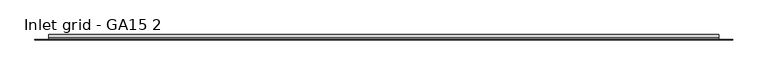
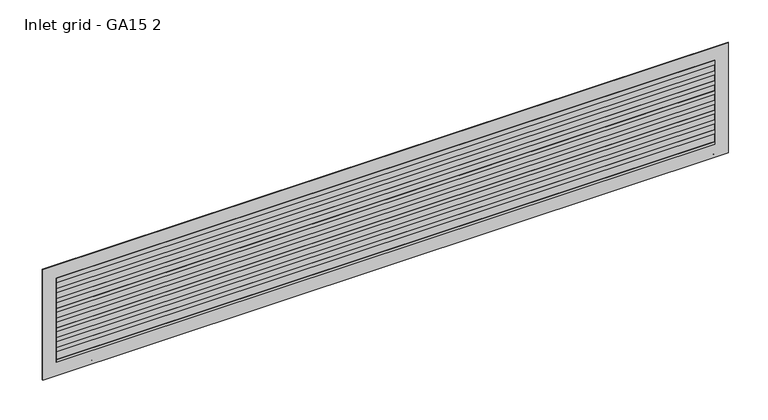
"""IFC4 building model written with IfcOpenShell, lengths in millimetres: proxy geometry, HVAC_Accessories_Emmeti_Grid-GA : Inlet grid - GA15 2."""

from ifc_helpers import new_model, si_unit, point, frame, frame_2d, origin, place, context, project, spatial, polyline, circle_curve, trimmed, segment, composite_curve, outline, extrude, source, transform, mapped, element, save


def inlet_grid_ga15_2_d9a18460(model_context):
    return source(origin(), model_context, "Body", "SweptSolid", [
        extrude(outline(composite_curve([segment(polyline([(4.732363, 150.0), (1.0, 163.9963613)]), True, "CONTINUOUS"), segment(trimmed(circle_curve(frame_2d((1.9313102, 163.1688853)), 1.245815), [point((1.0, 163.9963613))], [point((3.1350602, 163.4898854))], False, "CARTESIAN"), True, "CONTINUOUS"), segment(polyline([(3.1350602, 163.4898854), (7.772988, 146.0976564)]), True, "CONTINUOUS"), segment(trimmed(circle_curve(frame_2d((4.272988, 146.0976564)), 3.5), [point((7.772988, 146.0976564))], [point((4.272988, 142.5976564))], False, "CARTESIAN"), True, "CONTINUOUS"), segment(polyline([(4.272988, 142.5976564), (0.0, 142.5976564), (0.0, 150.0), (4.732363, 150.0)]), True, "CONTINUOUS")], self_intersect=False)), frame((-680.0, 0.0, 0.0), z_axis=(1.0, 0.0, 0.0), x_axis=(0.0, 1.0, 0.0)), (0.0, 0.0, 1.0), 960.0),
        extrude(outline(composite_curve([segment(polyline([(0.0, 127.5116343), (0.0, 133.2976564), (1.0, 133.2976564)]), True, "CONTINUOUS"), segment(trimmed(circle_curve(frame_2d((-9.0945217, 118.5661561)), 17.8582326), [point((1.0, 133.2976564))], [point((5.6369786, 128.6606778))], False, "CARTESIAN"), True, "CONTINUOUS"), segment(trimmed(circle_curve(frame_2d((4.0, 127.5116343)), 2.0), [point((5.6369786, 128.6606778))], [point((6.0, 127.5116343))], False, "CARTESIAN"), True, "CONTINUOUS"), segment(polyline([(6.0, 127.5116343), (0.0, 127.5116343)]), True, "CONTINUOUS")], self_intersect=False)), frame((-680.0, 0.0, 0.0), z_axis=(1.0, 0.0, 0.0), x_axis=(0.0, 1.0, 0.0)), (0.0, 0.0, 1.0), 960.0),
        extrude(outline(composite_curve([segment(polyline([(0.0, 112.4256122), (0.0, 118.2116343), (1.0, 118.2116343)]), True, "CONTINUOUS"), segment(trimmed(circle_curve(frame_2d((-9.0945217, 103.480134)), 17.8582326), [point((1.0, 118.2116343))], [point((5.6369786, 113.5746557))], False, "CARTESIAN"), True, "CONTINUOUS"), segment(trimmed(circle_curve(frame_2d((4.0, 112.4256122)), 2.0), [point((5.6369786, 113.5746557))], [point((6.0, 112.4256122))], False, "CARTESIAN"), True, "CONTINUOUS"), segment(polyline([(6.0, 112.4256122), (0.0, 112.4256122)]), True, "CONTINUOUS")], self_intersect=False)), frame((-680.0, 0.0, 0.0), z_axis=(1.0, 0.0, 0.0), x_axis=(0.0, 1.0, 0.0)), (0.0, 0.0, 1.0), 960.0),
        extrude(outline(composite_curve([segment(polyline([(0.0, 97.3395901), (0.0, 103.1256122), (1.0, 103.1256122)]), True, "CONTINUOUS"), segment(trimmed(circle_curve(frame_2d((-9.0945217, 88.3941118)), 17.8582326), [point((1.0, 103.1256122))], [point((5.6369786, 98.4886335))], False, "CARTESIAN"), True, "CONTINUOUS"), segment(trimmed(circle_curve(frame_2d((4.0, 97.3395901)), 2.0), [point((5.6369786, 98.4886335))], [point((6.0, 97.3395901))], False, "CARTESIAN"), True, "CONTINUOUS"), segment(polyline([(6.0, 97.3395901), (0.0, 97.3395901)]), True, "CONTINUOUS")], self_intersect=False)), frame((-680.0, 0.0, 0.0), z_axis=(1.0, 0.0, 0.0), x_axis=(0.0, 1.0, 0.0)), (0.0, 0.0, 1.0), 960.0),
        extrude(outline(composite_curve([segment(polyline([(0.0, 82.187813), (0.0, 87.9738351), (1.0, 87.9738351)]), True, "CONTINUOUS"), segment(trimmed(circle_curve(frame_2d((-9.0945217, 73.2423348)), 17.8582326), [point((1.0, 87.9738351))], [point((5.6369786, 83.3368565))], False, "CARTESIAN"), True, "CONTINUOUS"), segment(trimmed(circle_curve(frame_2d((4.0, 82.187813)), 2.0), [point((5.6369786, 83.3368565))], [point((6.0, 82.187813))], False, "CARTESIAN"), True, "CONTINUOUS"), segment(polyline([(6.0, 82.187813), (0.0, 82.187813)]), True, "CONTINUOUS")], self_intersect=False)), frame((-680.0, 0.0, 0.0), z_axis=(1.0, 0.0, 0.0), x_axis=(0.0, 1.0, 0.0)), (0.0, 0.0, 1.0), 960.0),
        extrude(outline(composite_curve([segment(polyline([(0.0, 67.1017909), (0.0, 72.887813), (1.0, 72.887813)]), True, "CONTINUOUS"), segment(trimmed(circle_curve(frame_2d((-9.0945217, 58.1563127)), 17.8582326), [point((1.0, 72.887813))], [point((5.6369786, 68.2508344))], False, "CARTESIAN"), True, "CONTINUOUS"), segment(trimmed(circle_curve(frame_2d((4.0, 67.1017909)), 2.0), [point((5.6369786, 68.2508344))], [point((6.0, 67.1017909))], False, "CARTESIAN"), True, "CONTINUOUS"), segment(polyline([(6.0, 67.1017909), (0.0, 67.1017909)]), True, "CONTINUOUS")], self_intersect=False)), frame((-680.0, 0.0, 0.0), z_axis=(1.0, 0.0, 0.0), x_axis=(0.0, 1.0, 0.0)), (0.0, 0.0, 1.0), 960.0),
        extrude(outline(composite_curve([segment(polyline([(0.0, 52.0157688), (0.0, 57.8017909), (1.0, 57.8017909)]), True, "CONTINUOUS"), segment(trimmed(circle_curve(frame_2d((-9.0945217, 43.0702905)), 17.8582326), [point((1.0, 57.8017909))], [point((5.6369786, 53.1648122))], False, "CARTESIAN"), True, "CONTINUOUS"), segment(trimmed(circle_curve(frame_2d((4.0, 52.0157688)), 2.0), [point((5.6369786, 53.1648122))], [point((6.0, 52.0157688))], False, "CARTESIAN"), True, "CONTINUOUS"), segment(polyline([(6.0, 52.0157688), (0.0, 52.0157688)]), True, "CONTINUOUS")], self_intersect=False)), frame((-680.0, 0.0, 0.0), z_axis=(1.0, 0.0, 0.0), x_axis=(0.0, 1.0, 0.0)), (0.0, 0.0, 1.0), 960.0),
        extrude(outline(composite_curve([segment(polyline([(0.0, 36.8639917), (0.0, 42.6500138), (1.0, 42.6500138)]), True, "CONTINUOUS"), segment(trimmed(circle_curve(frame_2d((-9.0945217, 27.9185135)), 17.8582326), [point((1.0, 42.6500138))], [point((5.6369786, 38.0130352))], False, "CARTESIAN"), True, "CONTINUOUS"), segment(trimmed(circle_curve(frame_2d((4.0, 36.8639917)), 2.0), [point((5.6369786, 38.0130352))], [point((6.0, 36.8639917))], False, "CARTESIAN"), True, "CONTINUOUS"), segment(polyline([(6.0, 36.8639917), (0.0, 36.8639917)]), True, "CONTINUOUS")], self_intersect=False)), frame((-680.0, 0.0, 0.0), z_axis=(1.0, 0.0, 0.0), x_axis=(0.0, 1.0, 0.0)), (0.0, 0.0, 1.0), 960.0),
        extrude(outline(composite_curve([segment(polyline([(0.0, 20.0), (0.0, 24.4023436), (5.772988, 24.4023436)]), True, "CONTINUOUS"), segment(trimmed(circle_curve(frame_2d((5.772988, 22.4023436)), 2.0), [point((5.772988, 24.4023436))], [point((7.772988, 22.4023436))], False, "CARTESIAN"), True, "CONTINUOUS"), segment(polyline([(7.772988, 22.4023436), (3.1350602, 5.0101146)]), True, "CONTINUOUS"), segment(trimmed(circle_curve(frame_2d((1.9313102, 5.3311147)), 1.245815), [point((3.1350602, 5.0101146))], [point((1.0, 4.5036387))], False, "CARTESIAN"), True, "CONTINUOUS"), segment(polyline([(1.0, 4.5036387), (5.132363, 20.0), (0.0, 20.0)]), True, "CONTINUOUS")], self_intersect=False)), frame((-680.0, 0.0, 0.0), z_axis=(1.0, 0.0, 0.0), x_axis=(0.0, 1.0, 0.0)), (0.0, 0.0, 1.0), 960.0),
        extrude(outline(polyline([(170.0, 300.0), (170.0, -700.0), (0.0, -700.0), (0.0, 300.0), (170.0, 300.0)]), holes=[polyline([(150.0, 280.0), (20.0, 280.0), (20.0, -680.0), (150.0, -680.0), (150.0, 280.0)])]), frame((0.0, 0.0, 0.0), z_axis=(0.0, 1.0, 0.0), x_axis=(0.0, 0.0, 1.0)), (0.0, 0.0, 1.0), 1.0),
        extrude(outline(polyline([(280.0, 0.0), (-680.0, 0.0), (-680.0, 1.0), (280.0, 1.0), (280.0, 0.0)])), frame((0.0, 0.0, 24.4023436), z_axis=(0.0, 0.0, 1.0), x_axis=(1.0, 0.0, 0.0)), (0.0, 0.0, 1.0), 125.5976564),
    ])


if __name__ == "__main__":
    model = new_model("IFC4")
    model_context = context("Model", 3, world=origin())
    ifc_project = project(units=[si_unit("LENGTHUNIT", "METRE", prefix="MILLI")], contexts=[model_context])
    site = spatial("IfcSite", under=ifc_project)
    building = spatial("IfcBuilding", under=site)
    placement = place(None, origin())
    inlet_grid_ga15_2_shape = inlet_grid_ga15_2_d9a18460(model_context)
    element("IfcBuildingElementProxy", 1, Name="HVAC_Accessories_Emmeti_Grid-GA : Inlet grid - GA15 2", ObjectType="HVAC_Accessories_Emmeti_Grid-GA : Inlet grid - GA15 2", at=placement, inside=building, context=model_context, shape_type="MappedRepresentation", body=[
        mapped(inlet_grid_ga15_2_shape, transform((0.0, 0.0, 0.0), x_axis=(1.0, 0.0, 0.0), y_axis=(0.0, 1.0, 0.0), z_axis=(0.0, 0.0, 1.0))),
    ])
    save(model, "model.ifc")
